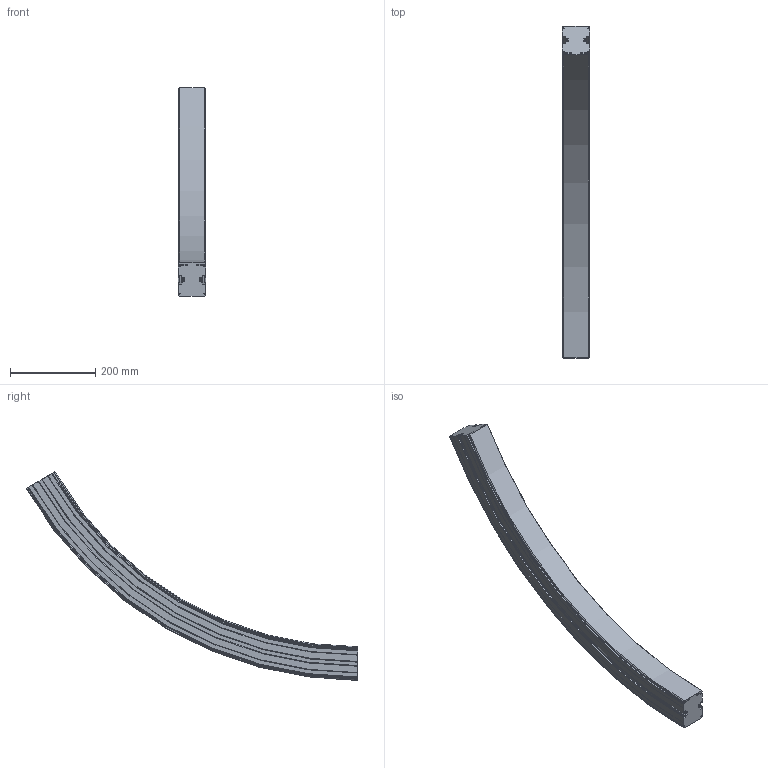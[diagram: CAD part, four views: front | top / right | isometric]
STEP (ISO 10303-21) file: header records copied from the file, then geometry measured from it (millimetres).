
FILE_DESCRIPTION(/* description */ ('VERTIKALKURVA S620 R860'),/* implementation_level */ '2;1');
FILE_NAME(/* name */ '\\carryline.intra\privat\users\mathias\Desktop\Tillfälliga filer\620-5695+620-2000-NER-01.stp',/* time_stamp */ '2018-12-06T07:07:14+01:00',/* author */ ('MD'),/* organization */ ('CARRYLINE'),/* preprocessor_version */ 'ST-DEVELOPER v17',/* originating_system */ 'Autodesk Inventor 2018',/* authorisation */ '');
FILE_SCHEMA (('AUTOMOTIVE_DESIGN { 1 0 10303 214 3 1 1 }'));
Length unit declared in the file: millimetre
Products named in the file (1): 620-5695+620-2000-NER-01
Bounding box: 64 x 777.69 x 488 mm (x, y, z)
Volume: 4018399.9 mm3; surface area: 438979.4 mm2
Topology: 1 solids, 1 shells, 149 faces, 426 edges, 284 vertices
Faces by surface type: plane 54, cylinder 37, torus 28, cone 16, bspline 14
Entity records: 9536 total; most frequent: CARTESIAN_POINT 5516, ORIENTED_EDGE 852, DIRECTION 836, EDGE_CURVE 426, AXIS2_PLACEMENT_3D 315, VERTEX_POINT 284, LINE 206, VECTOR 206
